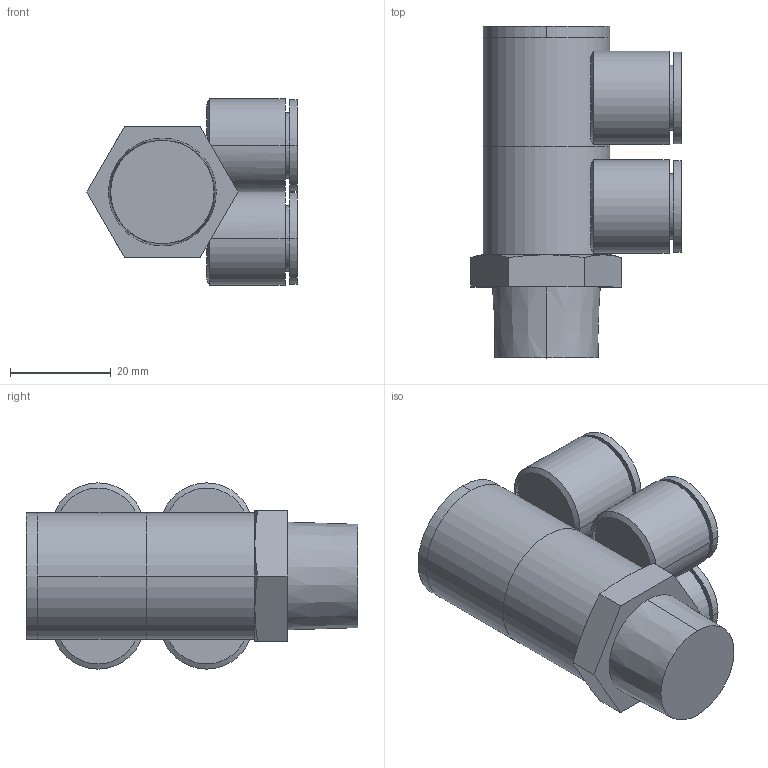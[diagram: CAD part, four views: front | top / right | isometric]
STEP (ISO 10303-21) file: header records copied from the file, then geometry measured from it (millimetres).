
FILE_DESCRIPTION (( 'STEP AP203' ), '1' );
FILE_NAME ('FZD12-04.STEP', '2020-05-11T14:50:26', ( '' ), ( '' ), 'SwSTEP 2.0', 'SolidWorks 2019', '' );
FILE_SCHEMA (( 'CONFIG_CONTROL_DESIGN' ));
Length unit declared in the file: millimetre
Products named in the file (1): FZD12-04
Bounding box: 41.81 x 66 x 37.05 mm (x, y, z)
Volume: 40870.9 mm3; surface area: 21343.9 mm2
Topology: 3 solids, 3 shells, 113 faces, 250 edges, 158 vertices
Faces by surface type: cylinder 60, plane 33, cone 20
Entity records: 3951 total; most frequent: CARTESIAN_POINT 1318, DIRECTION 572, ORIENTED_EDGE 500, EDGE_CURVE 250, AXIS2_PLACEMENT_3D 244, VERTEX_POINT 158, EDGE_LOOP 132, CIRCLE 130
